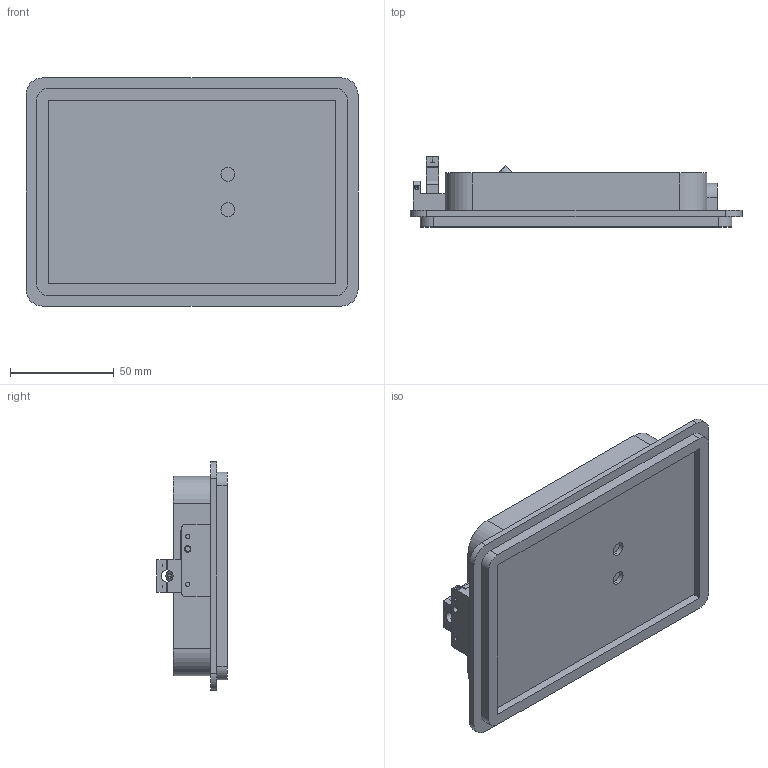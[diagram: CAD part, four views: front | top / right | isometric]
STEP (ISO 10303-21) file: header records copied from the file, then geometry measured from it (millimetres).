
FILE_DESCRIPTION (( 'STEP AP203' ), '1' );
FILE_NAME ('Standard Chamber with Tubing Adjustment.STEP', '2026-08-06T16:38:22', ( '' ), ( '' ), 'SwSTEP 2.0', 'SolidWorks 2025', '' );
FILE_SCHEMA (( 'CONFIG_CONTROL_DESIGN' ));
Length unit declared in the file: millimetre
Products named in the file (4): Standard Chamber with Tubing Adjustment; Tubing Adjustment Slide.STEP; Fish Chamber.STEP; fish chamber RevE.STEP
Assembly tree (3 placements, depth 4):
  Standard Chamber with Tubing Adjustment
    Tubing Adjustment Slide.STEP
      Fish Chamber.STEP
        fish chamber RevE.STEP
Bounding box: 159.77 x 33.84 x 109.73 mm (x, y, z)
Volume: 117976.3 mm3; surface area: 70318.2 mm2
Topology: 3 solids, 3 shells, 217 faces, 579 edges, 375 vertices
Faces by surface type: plane 110, cylinder 95, cone 8, torus 4
Entity records: 7466 total; most frequent: CARTESIAN_POINT 1441, DIRECTION 1212, ORIENTED_EDGE 1150, EDGE_CURVE 575, AXIS2_PLACEMENT_3D 422, VERTEX_POINT 375, LINE 368, VECTOR 368
